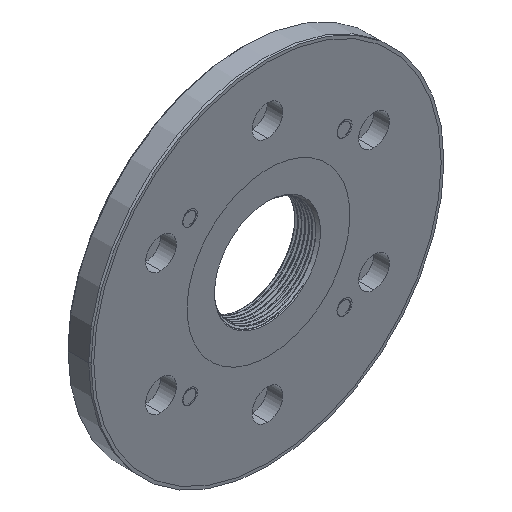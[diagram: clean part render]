
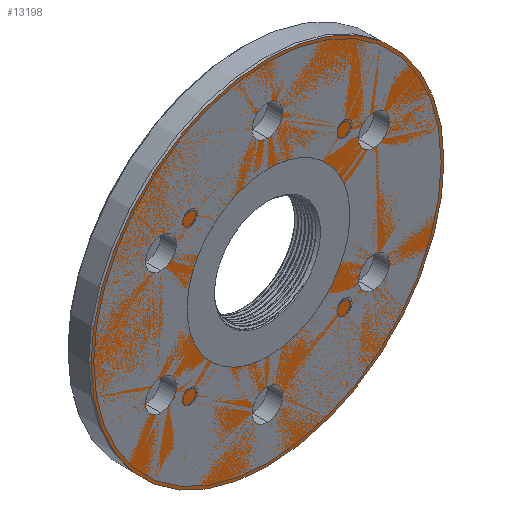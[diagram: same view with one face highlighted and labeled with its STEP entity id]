
A CAD part, isometric view. The second image highlights one B-rep face of the part: STEP entity #13198.
In plain terms, the highlighted planar face has unit normal (0, 1, 0).
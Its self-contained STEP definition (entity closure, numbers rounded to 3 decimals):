
#12996=CARTESIAN_POINT('',(20.689,0.,11.945));
#12997=DIRECTION('',(0.,1.,0.));
#12998=DIRECTION('',(0.,0.,1.));
#12999=AXIS2_PLACEMENT_3D('',#12996,#12997,#12998);
#13001=CARTESIAN_POINT('',(20.689,0.,11.945));
#13002=DIRECTION('',(0.,1.,0.));
#13003=DIRECTION('',(0.,0.,-1.));
#13004=AXIS2_PLACEMENT_3D('',#13001,#13002,#13003);
#13006=CARTESIAN_POINT('',(-20.689,0.,11.945));
#13007=DIRECTION('',(0.,1.,0.));
#13008=DIRECTION('',(0.,0.,1.));
#13009=AXIS2_PLACEMENT_3D('',#13006,#13007,#13008);
#13011=CARTESIAN_POINT('',(-20.689,0.,11.945));
#13012=DIRECTION('',(0.,1.,0.));
#13013=DIRECTION('',(0.,0.,-1.));
#13014=AXIS2_PLACEMENT_3D('',#13011,#13012,#13013);
#13016=CARTESIAN_POINT('',(0.,0.,-23.89));
#13017=DIRECTION('',(0.,1.,0.));
#13018=DIRECTION('',(0.,0.,1.));
#13019=AXIS2_PLACEMENT_3D('',#13016,#13017,#13018);
#13021=CARTESIAN_POINT('',(0.,0.,-23.89));
#13022=DIRECTION('',(0.,1.,0.));
#13023=DIRECTION('',(0.,0.,-1.));
#13024=AXIS2_PLACEMENT_3D('',#13021,#13022,#13023);
#13026=CARTESIAN_POINT('',(20.689,0.,-11.945));
#13027=DIRECTION('',(0.,1.,0.));
#13028=DIRECTION('',(0.,0.,1.));
#13029=AXIS2_PLACEMENT_3D('',#13026,#13027,#13028);
#13031=CARTESIAN_POINT('',(20.689,0.,-11.945));
#13032=DIRECTION('',(0.,1.,0.));
#13033=DIRECTION('',(0.,0.,-1.));
#13034=AXIS2_PLACEMENT_3D('',#13031,#13032,#13033);
#13036=CARTESIAN_POINT('',(-20.689,0.,-11.945));
#13037=DIRECTION('',(0.,1.,0.));
#13038=DIRECTION('',(0.,0.,1.));
#13039=AXIS2_PLACEMENT_3D('',#13036,#13037,#13038);
#13041=CARTESIAN_POINT('',(-20.689,0.,-11.945));
#13042=DIRECTION('',(0.,1.,0.));
#13043=DIRECTION('',(0.,0.,-1.));
#13044=AXIS2_PLACEMENT_3D('',#13041,#13042,#13043);
#13046=CARTESIAN_POINT('',(0.,0.,23.89));
#13047=DIRECTION('',(0.,1.,0.));
#13048=DIRECTION('',(0.,0.,1.));
#13049=AXIS2_PLACEMENT_3D('',#13046,#13047,#13048);
#13051=CARTESIAN_POINT('',(0.,0.,23.89));
#13052=DIRECTION('',(0.,1.,0.));
#13053=DIRECTION('',(0.,0.,-1.));
#13054=AXIS2_PLACEMENT_3D('',#13051,#13052,#13053);
#13056=CARTESIAN_POINT('',(0.,0.,0.));
#13057=DIRECTION('',(0.,-1.,0.));
#13058=DIRECTION('',(1.,0.,0.));
#13059=AXIS2_PLACEMENT_3D('',#13056,#13057,#13058);
#13061=CARTESIAN_POINT('',(0.,0.,0.));
#13062=DIRECTION('',(0.,-1.,0.));
#13063=DIRECTION('',(-1.,0.,0.));
#13064=AXIS2_PLACEMENT_3D('',#13061,#13062,#13063);
#13066=CARTESIAN_POINT('',(10.021,0.,-12.473));
#13067=CARTESIAN_POINT('',(9.252,0.,-13.075));
#13068=CARTESIAN_POINT('',(7.633,0.,-14.119));
#13069=CARTESIAN_POINT('',(4.922,0.,-15.24));
#13070=CARTESIAN_POINT('',(2.074,0.,-15.84));
#13071=CARTESIAN_POINT('',(-0.818,0.,-15.919));
#13072=CARTESIAN_POINT('',(-3.711,0.,-15.461));
#13073=CARTESIAN_POINT('',(-6.408,0.,-14.511));
#13074=CARTESIAN_POINT('',(-8.939,0.,-13.06));
#13075=CARTESIAN_POINT('',(-11.129,0.,-11.199));
#13076=CARTESIAN_POINT('',(-12.961,0.,-8.949));
#13077=CARTESIAN_POINT('',(-13.876,0.,-7.275));
#13078=CARTESIAN_POINT('',(-14.26,0.,-6.387));
#13080=CARTESIAN_POINT('',(0.,0.,0.));
#13081=DIRECTION('',(0.,1.,0.));
#13082=DIRECTION('',(-0.913,0.,-0.409));
#13083=AXIS2_PLACEMENT_3D('',#13080,#13081,#13082);
#13085=CARTESIAN_POINT('',(-7.908,0.,13.476));
#13086=CARTESIAN_POINT('',(-7.09,0.,13.971));
#13087=CARTESIAN_POINT('',(-5.389,0.,14.798));
#13088=CARTESIAN_POINT('',(-2.608,0.,15.572));
#13089=CARTESIAN_POINT('',(0.273,0.,15.822));
#13090=CARTESIAN_POINT('',(3.128,0.,15.551));
#13091=CARTESIAN_POINT('',(5.936,0.,14.751));
#13092=CARTESIAN_POINT('',(8.508,0.,13.474));
#13093=CARTESIAN_POINT('',(10.816,0.,11.755));
#13094=CARTESIAN_POINT('',(12.795,0.,9.63));
#13095=CARTESIAN_POINT('',(14.381,0.,7.133));
#13096=CARTESIAN_POINT('',(15.114,0.,5.307));
#13097=CARTESIAN_POINT('',(15.399,0.,4.345));
#13099=CARTESIAN_POINT('',(15.399,0.,4.345));
#13100=CARTESIAN_POINT('',(15.684,0.,3.333));
#13101=CARTESIAN_POINT('',(16.048,0.,1.297));
#13102=CARTESIAN_POINT('',(15.998,0.,-1.836));
#13103=CARTESIAN_POINT('',(15.334,0.,-4.911));
#13104=CARTESIAN_POINT('',(14.101,0.,-7.774));
#13105=CARTESIAN_POINT('',(12.319,0.,-10.367));
#13106=CARTESIAN_POINT('',(10.841,0.,-11.814));
#13107=CARTESIAN_POINT('',(10.021,0.,-12.473));
#13109=CARTESIAN_POINT('',(-34.29,0.,0.));
#13110=CARTESIAN_POINT('',(34.29,0.,0.));
#13111=VERTEX_POINT('',#13109);
#13112=VERTEX_POINT('',#13110);
#13113=VERTEX_POINT('',#13078);
#13114=VERTEX_POINT('',#13066);
#13115=VERTEX_POINT('',#13099);
#13116=VERTEX_POINT('',#13085);
#13117=CARTESIAN_POINT('',(20.689,0.,8.96));
#13118=CARTESIAN_POINT('',(20.689,0.,14.93));
#13119=VERTEX_POINT('',#13117);
#13120=VERTEX_POINT('',#13118);
#13121=CARTESIAN_POINT('',(-20.689,0.,8.96));
#13122=CARTESIAN_POINT('',(-20.689,0.,14.93));
#13123=VERTEX_POINT('',#13121);
#13124=VERTEX_POINT('',#13122);
#13125=CARTESIAN_POINT('',(0.,0.,-26.875));
#13126=CARTESIAN_POINT('',(0.,0.,-20.905));
#13127=VERTEX_POINT('',#13125);
#13128=VERTEX_POINT('',#13126);
#13129=CARTESIAN_POINT('',(20.689,0.,-14.93));
#13130=CARTESIAN_POINT('',(20.689,0.,-8.96));
#13131=VERTEX_POINT('',#13129);
#13132=VERTEX_POINT('',#13130);
#13133=CARTESIAN_POINT('',(-20.689,0.,-14.93));
#13134=CARTESIAN_POINT('',(-20.689,0.,-8.96));
#13135=VERTEX_POINT('',#13133);
#13136=VERTEX_POINT('',#13134);
#13137=CARTESIAN_POINT('',(0.,0.,20.905));
#13138=CARTESIAN_POINT('',(0.,0.,26.875));
#13139=VERTEX_POINT('',#13137);
#13140=VERTEX_POINT('',#13138);
#13141=CARTESIAN_POINT('',(0.,0.,0.));
#13142=DIRECTION('',(0.,1.,0.));
#13143=DIRECTION('',(-1.,0.,0.));
#13144=AXIS2_PLACEMENT_3D('',#13141,#13142,#13143);
#13145=PLANE('',#13144);
#13147=ORIENTED_EDGE('',*,*,#13146,.T.);
#13149=ORIENTED_EDGE('',*,*,#13148,.T.);
#13150=EDGE_LOOP('',(#13147,#13149));
#13151=FACE_OUTER_BOUND('',#13150,.F.);
#13153=ORIENTED_EDGE('',*,*,#13152,.T.);
#13155=ORIENTED_EDGE('',*,*,#13154,.T.);
#13156=EDGE_LOOP('',(#13153,#13155));
#13157=FACE_BOUND('',#13156,.F.);
#13159=ORIENTED_EDGE('',*,*,#13158,.T.);
#13161=ORIENTED_EDGE('',*,*,#13160,.T.);
#13162=EDGE_LOOP('',(#13159,#13161));
#13163=FACE_BOUND('',#13162,.F.);
#13165=ORIENTED_EDGE('',*,*,#13164,.T.);
#13167=ORIENTED_EDGE('',*,*,#13166,.T.);
#13168=EDGE_LOOP('',(#13165,#13167));
#13169=FACE_BOUND('',#13168,.F.);
#13171=ORIENTED_EDGE('',*,*,#13170,.T.);
#13173=ORIENTED_EDGE('',*,*,#13172,.T.);
#13174=EDGE_LOOP('',(#13171,#13173));
#13175=FACE_BOUND('',#13174,.F.);
#13177=ORIENTED_EDGE('',*,*,#13176,.T.);
#13179=ORIENTED_EDGE('',*,*,#13178,.T.);
#13180=EDGE_LOOP('',(#13177,#13179));
#13181=FACE_BOUND('',#13180,.F.);
#13183=ORIENTED_EDGE('',*,*,#13182,.T.);
#13185=ORIENTED_EDGE('',*,*,#13184,.T.);
#13186=EDGE_LOOP('',(#13183,#13185));
#13187=FACE_BOUND('',#13186,.F.);
#13189=ORIENTED_EDGE('',*,*,#13188,.T.);
#13191=ORIENTED_EDGE('',*,*,#13190,.T.);
#13193=ORIENTED_EDGE('',*,*,#13192,.T.);
#13195=ORIENTED_EDGE('',*,*,#13194,.T.);
#13196=EDGE_LOOP('',(#13189,#13191,#13193,#13195));
#13197=FACE_BOUND('',#13196,.F.);
#13198=ADVANCED_FACE('',(#13151,#13157,#13163,#13169,#13175,#13181,#13187,
#13197),#13145,.T.);
#13000=CIRCLE('',#12999,2.985);
#13005=CIRCLE('',#13004,2.985);
#13010=CIRCLE('',#13009,2.985);
#13015=CIRCLE('',#13014,2.985);
#13020=CIRCLE('',#13019,2.985);
#13025=CIRCLE('',#13024,2.985);
#13030=CIRCLE('',#13029,2.985);
#13035=CIRCLE('',#13034,2.985);
#13040=CIRCLE('',#13039,2.985);
#13045=CIRCLE('',#13044,2.985);
#13050=CIRCLE('',#13049,2.985);
#13055=CIRCLE('',#13054,2.985);
#13060=CIRCLE('',#13059,34.29);
#13065=CIRCLE('',#13064,34.29);
#13079=B_SPLINE_CURVE_WITH_KNOTS('',3,(#13066,#13067,#13068,#13069,#13070,
#13071,#13072,#13073,#13074,#13075,#13076,#13077,#13078),.UNSPECIFIED.,.F.,.F.,(
4,1,1,1,1,1,1,1,1,1,4),(0.,0.1,0.2,0.3,0.4,0.5,0.6,0.7,0.8,
0.9,1.),.UNSPECIFIED.);
#13084=CIRCLE('',#13083,15.625);
#13098=B_SPLINE_CURVE_WITH_KNOTS('',3,(#13085,#13086,#13087,#13088,#13089,
#13090,#13091,#13092,#13093,#13094,#13095,#13096,#13097),.UNSPECIFIED.,.F.,.F.,(
4,1,1,1,1,1,1,1,1,1,4),(0.,0.1,0.2,0.3,0.4,0.5,0.6,0.7,0.8,
0.9,1.),.UNSPECIFIED.);
#13108=B_SPLINE_CURVE_WITH_KNOTS('',3,(#13099,#13100,#13101,#13102,#13103,
#13104,#13105,#13106,#13107),.UNSPECIFIED.,.F.,.F.,(4,1,1,1,1,1,4),(0.,
0.167,0.333,0.5,0.667,0.833,
1.),.UNSPECIFIED.);
#13146=EDGE_CURVE('',#13112,#13111,#13060,.T.);
#13148=EDGE_CURVE('',#13111,#13112,#13065,.T.);
#13152=EDGE_CURVE('',#13124,#13123,#13010,.T.);
#13154=EDGE_CURVE('',#13123,#13124,#13015,.T.);
#13158=EDGE_CURVE('',#13128,#13127,#13020,.T.);
#13160=EDGE_CURVE('',#13127,#13128,#13025,.T.);
#13164=EDGE_CURVE('',#13132,#13131,#13030,.T.);
#13166=EDGE_CURVE('',#13131,#13132,#13035,.T.);
#13170=EDGE_CURVE('',#13136,#13135,#13040,.T.);
#13172=EDGE_CURVE('',#13135,#13136,#13045,.T.);
#13176=EDGE_CURVE('',#13140,#13139,#13050,.T.);
#13178=EDGE_CURVE('',#13139,#13140,#13055,.T.);
#13182=EDGE_CURVE('',#13120,#13119,#13000,.T.);
#13184=EDGE_CURVE('',#13119,#13120,#13005,.T.);
#13188=EDGE_CURVE('',#13114,#13113,#13079,.T.);
#13190=EDGE_CURVE('',#13113,#13116,#13084,.T.);
#13192=EDGE_CURVE('',#13116,#13115,#13098,.T.);
#13194=EDGE_CURVE('',#13115,#13114,#13108,.T.);
